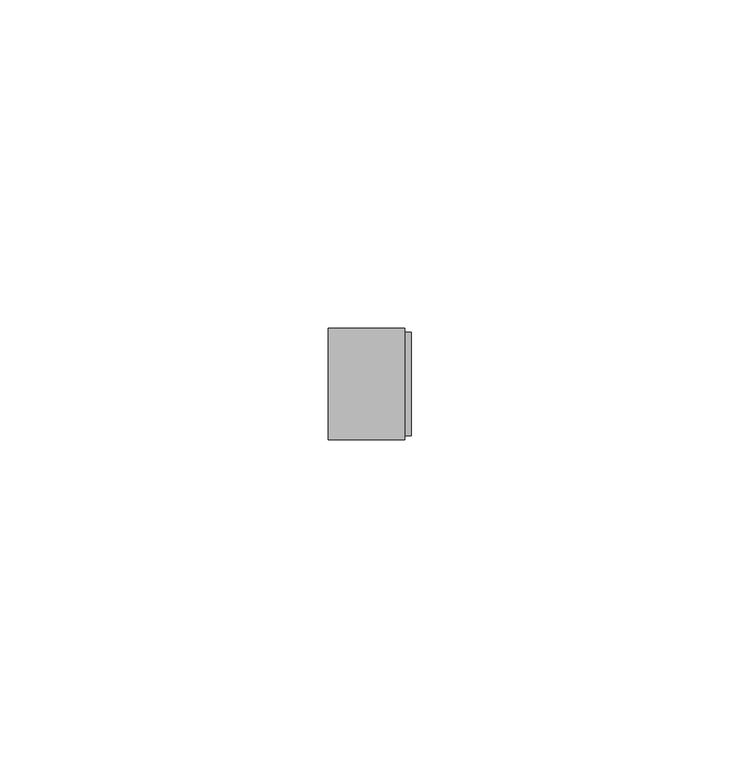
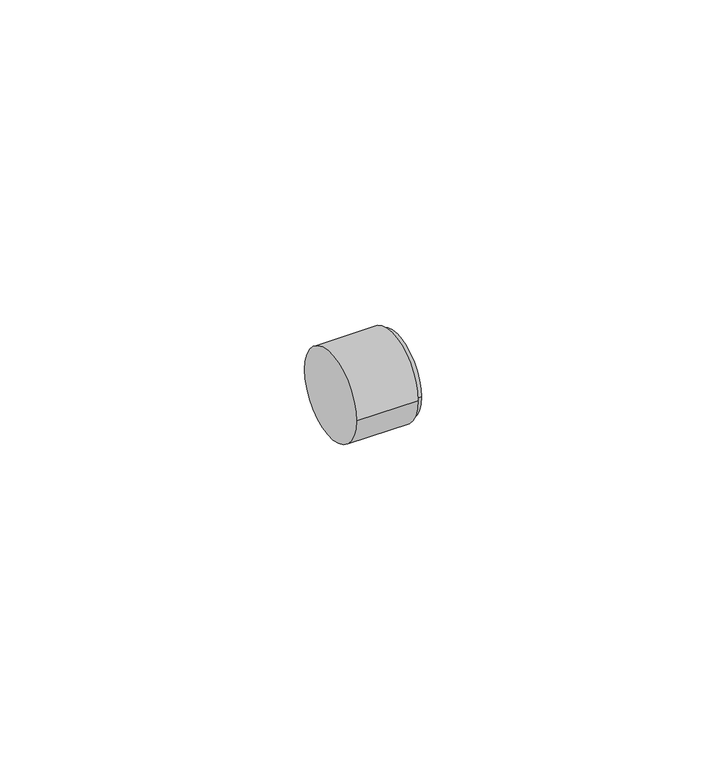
"""IFC4 building model written with IfcOpenShell, lengths in millimetres: pipe fitting geometry, Bucha de redução reta - Soldada - CU : Padrão."""

from ifc_helpers import new_model, si_unit, frame, origin, place, context, project, spatial, circle_curve, source, transform, mapped, element, save
from ifc_brep_helpers import plane_surface, cylinder_surface, advanced_brep


def pipe_fitting_501e5992(model_context):
    return source(origin(), model_context, "Body", "AdvancedBrep", [
        advanced_brep(
        [(0.0, -8.4937, 0.0), (0.0, 8.4937, 0.0), (11.6589, -8.4937, 0.0), (11.6589, 8.4937, 0.0), (11.6589, -7.85, 0.0), (11.6589, 7.85, 0.0), (12.6589, -7.85, 0.0), (12.6589, 7.85, 0.0)],
        [
            (0, 1, circle_curve(frame((0.0, 0.0, 0.0), z_axis=(-1.0, 0.0, 0.0), x_axis=(0.0, 1.0, 0.0)), 8.4937)),
            (1, 0, circle_curve(frame((0.0, 0.0, 0.0), z_axis=(-1.0, 0.0, 0.0), x_axis=(0.0, 1.0, 0.0)), 8.4937)),
            (2, 3, circle_curve(frame((11.6589, 0.0, 0.0), z_axis=(1.0, 0.0, 0.0), x_axis=(0.0, 1.0, 0.0)), 8.4937)),
            (3, 2, circle_curve(frame((11.6589, 0.0, 0.0), z_axis=(1.0, 0.0, 0.0), x_axis=(0.0, 1.0, 0.0)), 8.4937)),
            (4, 5, circle_curve(frame((11.6589, 0.0, 0.0), z_axis=(-1.0, 0.0, 0.0), x_axis=(0.0, 1.0, 0.0)), 7.85)),
            (5, 4, circle_curve(frame((11.6589, 0.0, 0.0), z_axis=(-1.0, 0.0, 0.0), x_axis=(0.0, 1.0, 0.0)), 7.85)),
            (0, 2),
            (3, 1),
            (6, 7, circle_curve(frame((12.6589, 0.0, 0.0), z_axis=(1.0, 0.0, 0.0), x_axis=(0.0, 1.0, 0.0)), 7.85)),
            (7, 6, circle_curve(frame((12.6589, 0.0, 0.0), z_axis=(1.0, 0.0, 0.0), x_axis=(0.0, 1.0, 0.0)), 7.85)),
            (7, 5),
            (4, 6),
        ],
        [
            plane_surface(frame((0.0, 0.0, 0.0), z_axis=(-1.0, 0.0, 0.0), x_axis=(0.0, 0.0, 1.0))),
            plane_surface(frame((11.6589, 0.0, 0.0), z_axis=(1.0, 0.0, 0.0), x_axis=(0.0, 0.0, 1.0))),
            cylinder_surface(frame((0.0, 0.0, 0.0), z_axis=(-1.0, 0.0, 0.0), x_axis=(0.0, 1.0, 0.0)), 8.4937),
            plane_surface(frame((12.6589, 0.0, 0.0), z_axis=(1.0, 0.0, 0.0), x_axis=(0.0, 0.0, 1.0))),
            cylinder_surface(frame((11.6589, 0.0, 0.0), z_axis=(-1.0, 0.0, 0.0), x_axis=(0.0, 1.0, 0.0)), 7.85),
        ],
        [
            (0, [[1, 2]]),
            (1, [[3, 4], [5, 6]]),
            (2, [[-1, 7, -4, 8]]),
            (2, [[-2, -8, -3, -7]]),
            (3, [[9, 10]]),
            (4, [[-10, 11, -5, 12]]),
            (4, [[-9, -12, -6, -11]]),
        ],
    ),
    ])


if __name__ == "__main__":
    model = new_model("IFC4")
    model_context = context("Model", 3, world=origin())
    ifc_project = project(units=[si_unit("LENGTHUNIT", "METRE", prefix="MILLI")], contexts=[model_context])
    site = spatial("IfcSite", under=ifc_project)
    building = spatial("IfcBuilding", under=site)
    placement = place(None, origin())
    pipe_fitting_shape = pipe_fitting_501e5992(model_context)
    element("IfcPipeFitting", 1, ObjectType="Bucha de redução reta - Soldada - CU : Padrão", at=placement, inside=building, context=model_context, shape_type="MappedRepresentation", body=[
        mapped(pipe_fitting_shape, transform((0.0, 0.0, 0.0), x_axis=(1.0, 0.0, 0.0), y_axis=(0.0, 1.0, 0.0), z_axis=(0.0, 0.0, 1.0))),
    ])
    save(model, "model.ifc")
